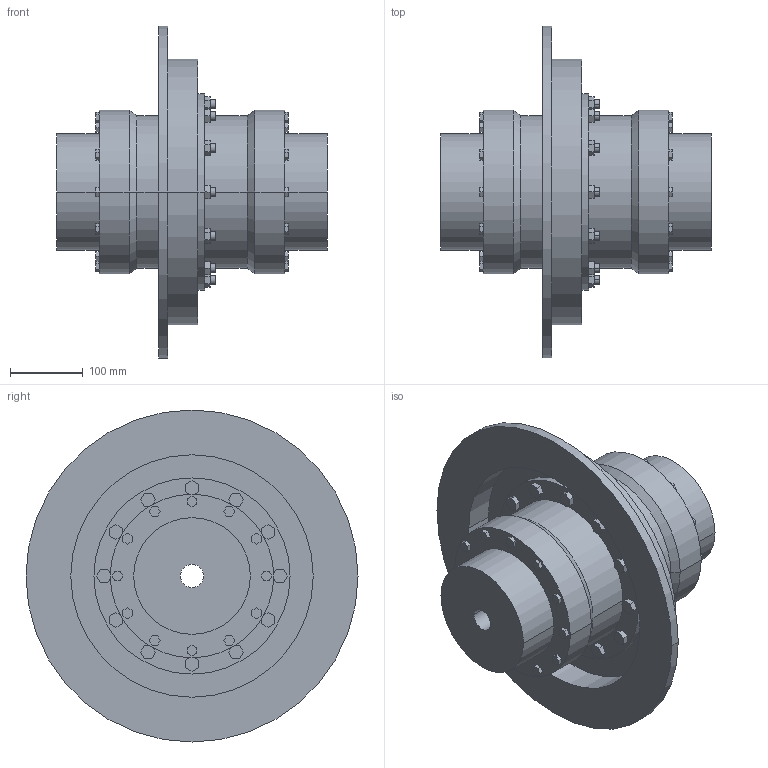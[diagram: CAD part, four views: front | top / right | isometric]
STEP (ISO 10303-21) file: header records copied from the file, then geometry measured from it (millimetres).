
FILE_DESCRIPTION((''),'2;1');
FILE_NAME('A19727300-0_ASM','2019-05-23T',('AB_Roschiwal'),('RENK AG'),'PRO/ENGINEER BY PARAMETRIC TECHNOLOGY CORPORATION, 2015440','PRO/ENGINEER BY PARAMETRIC TECHNOLOGY CORPORATION, 2015440','');
FILE_SCHEMA(('CONFIG_CONTROL_DESIGN'));
Length unit declared in the file: millimetre
Products named in the file (4): SBKT100_GEHAEUSE; SBKT100_NABE; SBKT100_BREMSSCHEIBE; A19727300-0_ASM
Assembly tree (4 placements, depth 2):
  A19727300-0_ASM
    SBKT100_GEHAEUSE
    SBKT100_NABE  x2
    SBKT100_BREMSSCHEIBE
Bounding box: 373 x 457 x 457 mm (x, y, z)
Volume: 10596644.5 mm3; surface area: 1137784.4 mm2
Topology: 4 solids, 4 shells, 470 faces, 1156 edges, 768 vertices
Faces by surface type: plane 370, cylinder 96, cone 4
Entity records: 13604 total; most frequent: CARTESIAN_POINT 2350, ORIENTED_EDGE 2264, DIRECTION 2240, EDGE_CURVE 1132, VECTOR 956, LINE 956, VERTEX_POINT 752, AXIS2_PLACEMENT_3D 642
